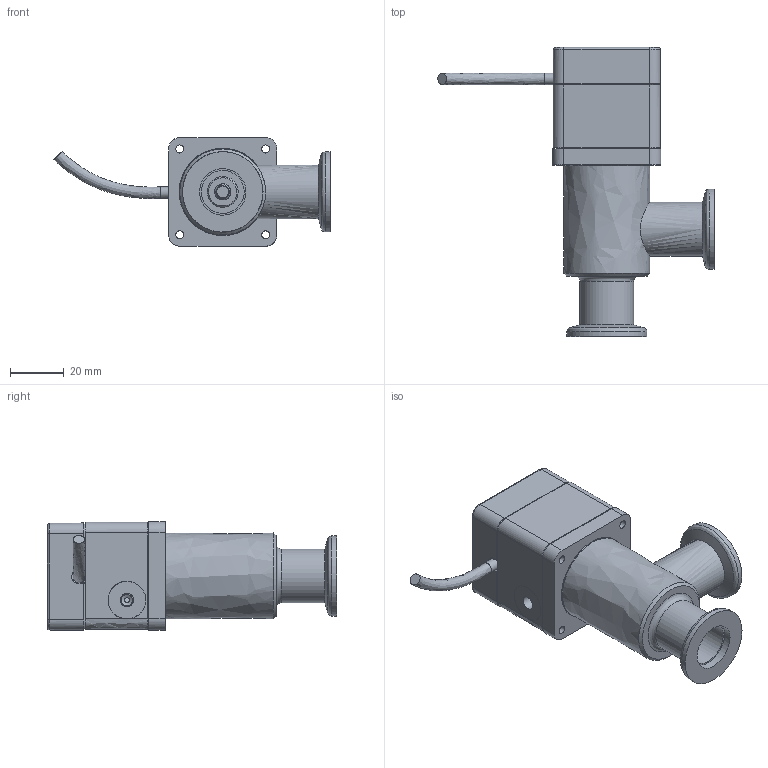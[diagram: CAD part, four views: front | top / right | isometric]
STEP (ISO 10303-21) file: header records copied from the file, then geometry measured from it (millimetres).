
FILE_DESCRIPTION((''),'2;1');
FILE_NAME('O:\MT\MT\Systeme\Cad\Datenexporte\www_vat_ch\247978.stp','2004-06-24T15:35:32',('User'),('SDRC'),'I-DEAS Master Series 9','UNIX','Yes');
FILE_SCHEMA(('CONFIG_CONTROL_DESIGN'));
Length unit declared in the file: millimetre
Assembly tree (10 placements, depth 0):
Bounding box: 102.92 x 107.7 x 40.46 mm (x, y, z)
Volume: 34133.8 mm3; surface area: 43721.2 mm2
Topology: 8 solids, 10 shells, 446 faces, 1112 edges, 717 vertices
Faces by surface type: bspline 446
Entity records: 16211 total; most frequent: CARTESIAN_POINT 8603, ORIENTED_EDGE 2127, EDGE_CURVE 1065, VERTEX_POINT 686, EDGE_LOOP 503, FACE_OUTER_BOUND 428, ADVANCED_FACE 428, QUASI_UNIFORM_CURVE 376
